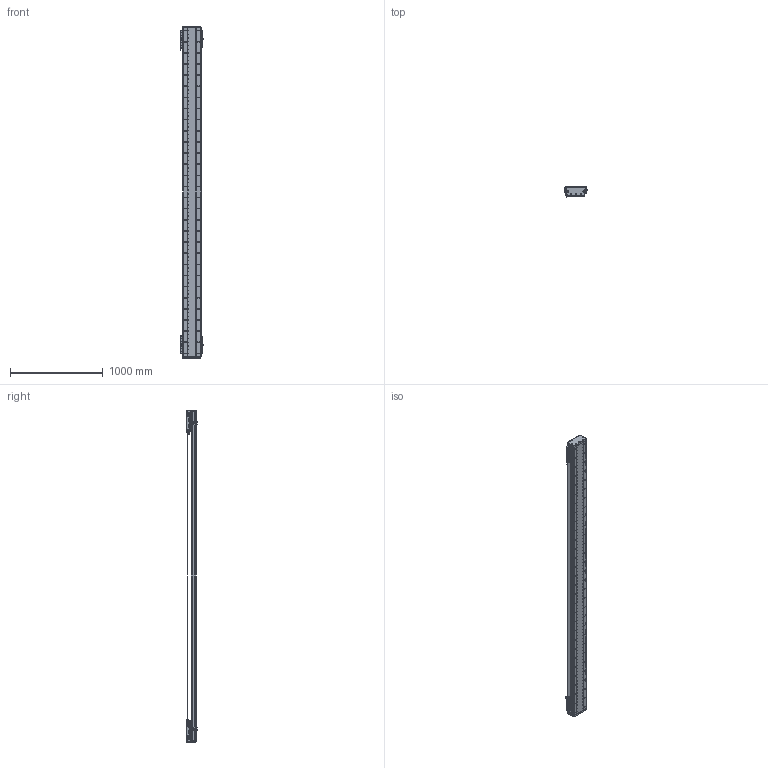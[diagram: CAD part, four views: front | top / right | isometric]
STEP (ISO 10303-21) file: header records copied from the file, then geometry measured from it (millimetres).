
FILE_DESCRIPTION (( 'STEP AP203' ), '1' );
FILE_NAME ('DA-C195-2-C2-T3080-C010-0.2 眻盄萇儂.STEP', '2025-08-14T02:16:00', ( '' ), ( '' ), 'SwSTEP 2.0', 'SolidWorks 2019', '' );
FILE_SCHEMA (( 'CONFIG_CONTROL_DESIGN' ));
Length unit declared in the file: millimetre
Products named in the file (19): DKW-GYP-ZJ-00 笢潔嫖萇覜茼え-1; 葩璃 DA95-GT-T-00-1; MS200 棠掑喜S315-T1740-1; IU-CU195-L 菁釱絳寢-1; DKW-KGZ-ZJ-00 中间光电开关支架-1; PM-T45ㄗ侂狟ㄘ-1; DKW168-HXJ-ZJ-00 笢潔滅袉砎蝶-1; DA95-HXJ-00 遣喳砎蝶-1; LMT黍杅芛-1; DA195詩湍菜輸-1; DA165-GYP-00 光电感应片(默认)-1; DA-C195-GD-DB-H-00 傷啣-1; DA195詩湍裔啣-1; DA195詩湍嶺輸-1; IU-CU195-L-00 菁釱(L3540); CU195-C2賑輸-俋楷-1; DA-C195-2-C2-T3080-C010-0.2 眻盄萇儂; PM-Y65嫖萇羲壽郪璃-1; DA195詩湍郪璃-1
Assembly tree (37 placements, depth 3):
  DA-C195-2-C2-T3080-C010-0.2 眻盄萇儂
    DA195詩湍郪璃-1
      DA195詩湍菜輸-1  x2
      DA195詩湍裔啣-1
      DA195詩湍嶺輸-1  x2
      DA95-HXJ-00 遣喳砎蝶-1  x8
      DA-C195-GD-DB-H-00 傷啣-1  x2
    IU-CU195-L 菁釱絳寢-1
      IU-CU195-L-00 菁釱(L3540)
      葩璃 DA95-GT-T-00-1  x4
    LMT黍杅芛-1  x2
    MS200 棠掑喜S315-T1740-1
    PM-T45ㄗ侂狟ㄘ-1  x4
    DA165-GYP-00 光电感应片(默认)-1  x2
    PM-Y65嫖萇羲壽郪璃-1
    DKW168-HXJ-ZJ-00 笢潔滅袉砎蝶-1
    DKW-GYP-ZJ-00 笢潔嫖萇覜茼え-1
    DKW-KGZ-ZJ-00 中间光电开关支架-1
    CU195-C2賑輸-俋楷-1  x2
Bounding box: 258.2 x 115.45 x 3580 mm (x, y, z)
Volume: 21089489.3 mm3; surface area: 6212116.1 mm2
Topology: 114 solids, 242 shells, 7417 faces, 20159 edges, 12609 vertices
Faces by surface type: cylinder 3692, plane 2641, cone 916, torus 88, sphere 72, bspline 8
Entity records: 172263 total; most frequent: CARTESIAN_POINT 48907, ORIENTED_EDGE 26150, DIRECTION 24354, EDGE_CURVE 13075, AXIS2_PLACEMENT_3D 9009, VERTEX_POINT 8496, VECTOR 6336, LINE 6336
